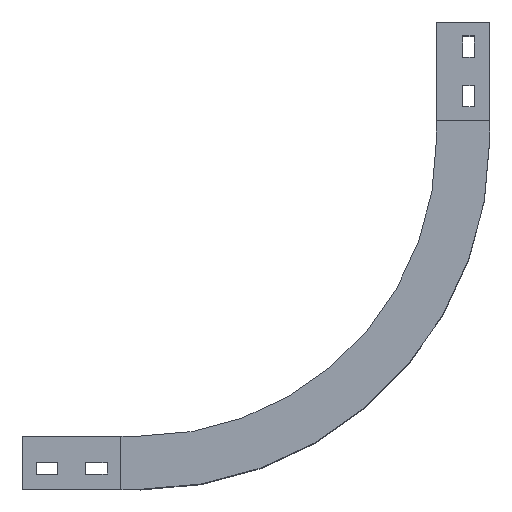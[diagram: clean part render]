
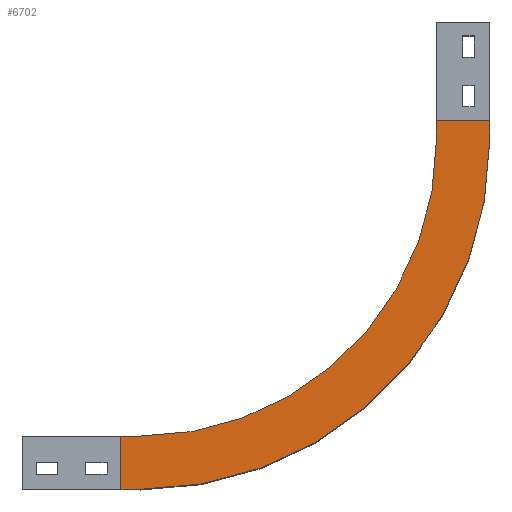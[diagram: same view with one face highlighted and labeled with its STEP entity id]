
A CAD part, top view. The second image highlights one B-rep face of the part: STEP entity #6702.
In plain terms, the highlighted planar face has unit normal (0, 0, 1).
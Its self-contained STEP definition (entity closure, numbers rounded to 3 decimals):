
#449=CIRCLE('',#7185,354.);
#450=CIRCLE('',#7186,300.);
#902=FACE_OUTER_BOUND('',#1354,.T.);
#1354=EDGE_LOOP('',(#6109,#6110,#6111,#6112,#6113,#6114,#6115,#6116));
#2009=LINE('',#14408,#2685);
#2013=LINE('',#14416,#2689);
#2014=LINE('',#14420,#2690);
#2015=LINE('',#14422,#2691);
#2016=LINE('',#14424,#2692);
#2017=LINE('',#14427,#2693);
#2685=VECTOR('',#8767,304.8);
#2689=VECTOR('',#8773,304.8);
#2690=VECTOR('',#8776,304.8);
#2691=VECTOR('',#8777,304.8);
#2692=VECTOR('',#8778,304.8);
#2693=VECTOR('',#8781,304.8);
#3325=VERTEX_POINT('',#14406);
#3326=VERTEX_POINT('',#14407);
#3329=VERTEX_POINT('',#14415);
#3330=VERTEX_POINT('',#14417);
#3331=VERTEX_POINT('',#14419);
#3332=VERTEX_POINT('',#14421);
#3333=VERTEX_POINT('',#14423);
#3334=VERTEX_POINT('',#14425);
#4257=EDGE_CURVE('',#3325,#3326,#2009,.T.);
#4261=EDGE_CURVE('',#3325,#3329,#2013,.T.);
#4262=EDGE_CURVE('',#3329,#3330,#449,.T.);
#4263=EDGE_CURVE('',#3330,#3331,#2014,.T.);
#4264=EDGE_CURVE('',#3331,#3332,#2015,.T.);
#4265=EDGE_CURVE('',#3332,#3333,#2016,.T.);
#4266=EDGE_CURVE('',#3333,#3334,#450,.T.);
#4267=EDGE_CURVE('',#3334,#3326,#2017,.T.);
#6109=ORIENTED_EDGE('',*,*,#4257,.F.);
#6110=ORIENTED_EDGE('',*,*,#4261,.T.);
#6111=ORIENTED_EDGE('',*,*,#4262,.T.);
#6112=ORIENTED_EDGE('',*,*,#4263,.T.);
#6113=ORIENTED_EDGE('',*,*,#4264,.T.);
#6114=ORIENTED_EDGE('',*,*,#4265,.T.);
#6115=ORIENTED_EDGE('',*,*,#4266,.T.);
#6116=ORIENTED_EDGE('',*,*,#4267,.T.);
#6378=PLANE('',#7184);
#6702=ADVANCED_FACE('',(#902),#6378,.T.);
#7184=AXIS2_PLACEMENT_3D('',#14414,#8771,#8772);
#7185=AXIS2_PLACEMENT_3D('',#14418,#8774,#8775);
#7186=AXIS2_PLACEMENT_3D('',#14426,#8779,#8780);
#8767=DIRECTION('',(0.,1.,0.));
#8771=DIRECTION('center_axis',(0.,0.,
1.));
#8772=DIRECTION('ref_axis',(1.,0.,0.));
#8773=DIRECTION('',(1.,0.,0.));
#8774=DIRECTION('center_axis',(0.,0.,1.));
#8775=DIRECTION('ref_axis',(0.,-1.,0.));
#8776=DIRECTION('',(0.,1.,0.));
#8777=DIRECTION('',(-1.,0.,0.));
#8778=DIRECTION('',(0.,-1.,0.));
#8779=DIRECTION('center_axis',(0.,0.,-1.));
#8780=DIRECTION('ref_axis',(0.,-1.,0.));
#8781=DIRECTION('',(-1.,0.,0.));
#14406=CARTESIAN_POINT('',(-347.,-27.,205.5));
#14407=CARTESIAN_POINT('',(-347.,27.,205.5));
#14408=CARTESIAN_POINT('',(-347.,-27.,205.5));
#14414=CARTESIAN_POINT('Origin',(-347.,-27.,205.5));
#14415=CARTESIAN_POINT('',(-327.,-27.,205.5));
#14416=CARTESIAN_POINT('',(-347.,-27.,205.5));
#14417=CARTESIAN_POINT('',(27.,327.,205.5));
#14418=CARTESIAN_POINT('Origin',(-327.,327.,205.5));
#14419=CARTESIAN_POINT('',(27.,347.,205.5));
#14420=CARTESIAN_POINT('',(27.,327.,205.5));
#14421=CARTESIAN_POINT('',(-27.,347.,205.5));
#14422=CARTESIAN_POINT('',(-27.,347.,205.5));
#14423=CARTESIAN_POINT('',(-27.,327.,205.5));
#14424=CARTESIAN_POINT('',(-27.,327.,205.5));
#14425=CARTESIAN_POINT('',(-327.,27.,205.5));
#14426=CARTESIAN_POINT('Origin',(-327.,327.,205.5));
#14427=CARTESIAN_POINT('',(-347.,27.,205.5));
